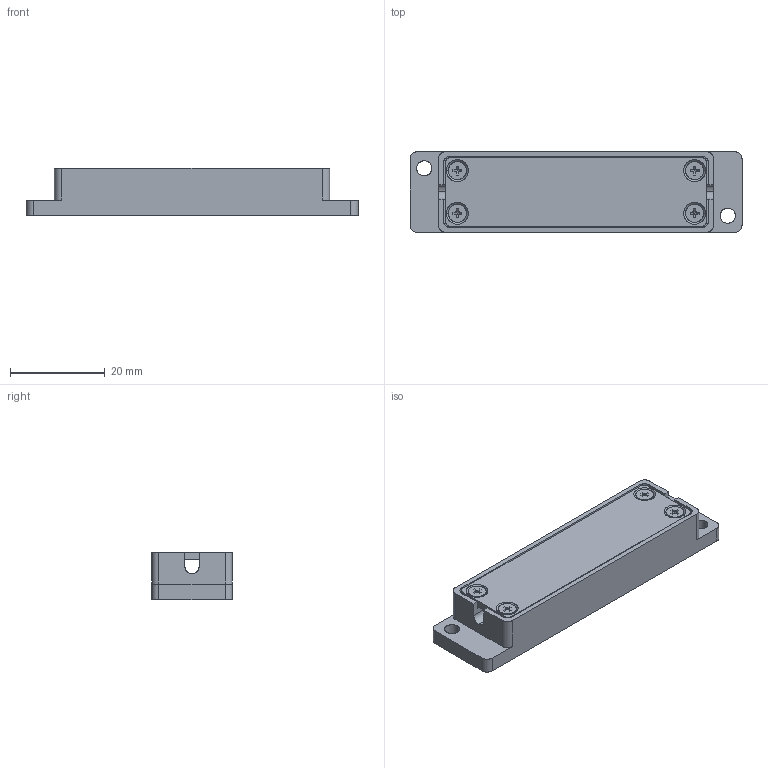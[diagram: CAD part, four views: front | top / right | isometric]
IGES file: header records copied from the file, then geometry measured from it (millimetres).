
Start section: SolidWorks IGES file using analytic representation for surfaces
Global section: file name: C:\Zettlex Data\Mechanical Drawings\4114\Aluminium Housing Rev 1-1.IGS; native system: SolidWorks 2017; preprocessor: SolidWorks 2017; author: Istvan; date: 170816.105225; units: millimetre
Bounding box: 70 x 17 x 10 mm (x, y, z)
Surface area: 7288.3 mm2 (no closed solid volume)
Topology: 0 solids, 0 shells, 282 faces, 3028 edges, 3020 vertices
Faces by surface type: bspline 142, revolution 140
